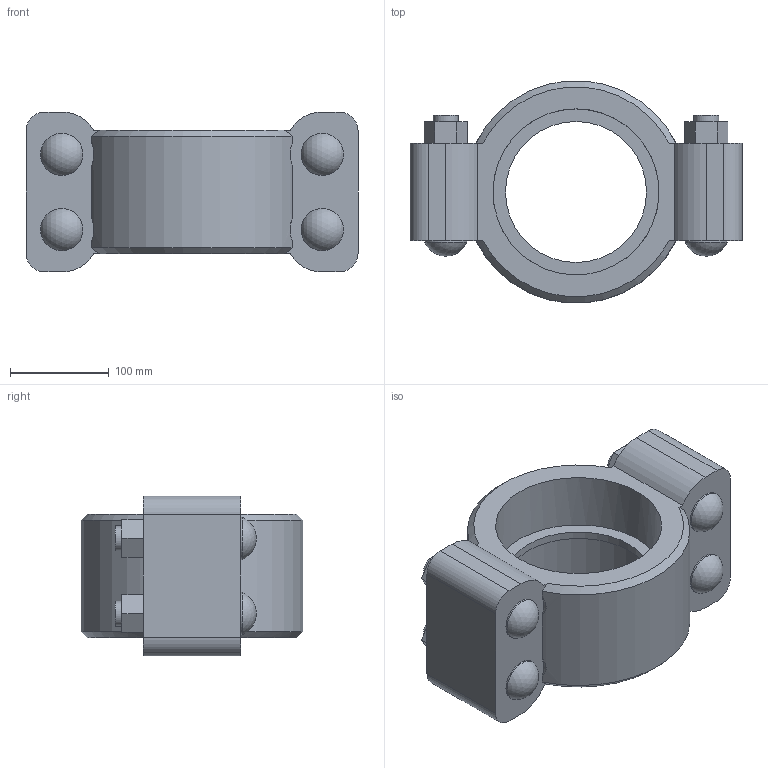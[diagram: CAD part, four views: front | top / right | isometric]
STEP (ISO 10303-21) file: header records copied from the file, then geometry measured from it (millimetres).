
FILE_DESCRIPTION(/* description */ ('VIC HIGH-PRESSURE COUPLING STYLE 809N ','CAx-IF Rec.Pracs.---Representation and Presentation of Product Manufacturing Information (PMI)---4.0---2014-10-13'),/* implementation_level */ '2;1');
FILE_NAME(/* name */ 'C:\Users\kkamble\AppData\Roaming\Autodesk\ApplicationPlugins\Back Up\Victaulic_Vic-Ring_Coupling Flexible High-Pressure_Style 809N (OGR)\Victaulic_Vic-Ring_Coupling Flexible High-Pressure_Style 809N (OGR)_6 (150).stp',/* time_stamp */ '2020-09-15T20:14:17+06:00',/* author */ ('jbrannon'),/* organization */ ('Victaulic'),/* preprocessor_version */ 'ST-DEVELOPER v17.2',/* originating_system */ 'Autodesk Inventor 2019',/* authorisation */ '');
FILE_SCHEMA (('AP242_MANAGED_MODEL_BASED_3D_ENGINEERING_MIM_LF { 1 0 10303 442 1 1 4 }'));
Length unit declared in the file: inch
Products named in the file (1): 809N-06.0
Bounding box: 336.55 x 224.72 x 162.05 mm (x, y, z)
Volume: 4187425.1 mm3; surface area: 358741 mm2
Topology: 1 solids, 5 shells, 111 faces, 289 edges, 202 vertices
Faces by surface type: plane 62, cylinder 41, sphere 4, cone 4
Full cylindrical faces by diameter (mm): 25.4 x8, 42.85 x4, 142.875 x1, 168.275 x2
Entity records: 3858 total; most frequent: CARTESIAN_POINT 772, DIRECTION 629, ORIENTED_EDGE 578, EDGE_CURVE 289, AXIS2_PLACEMENT_3D 231, VERTEX_POINT 202, LINE 167, VECTOR 167
